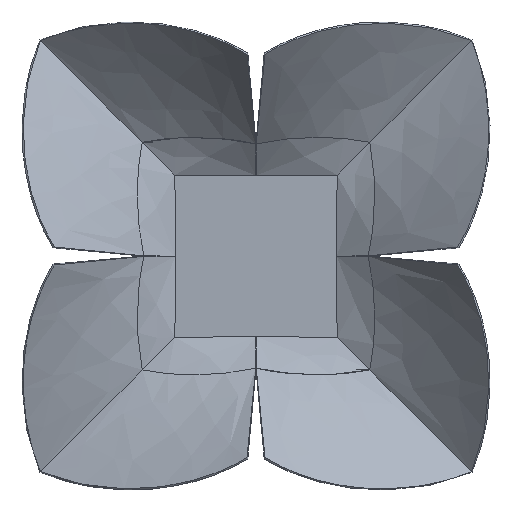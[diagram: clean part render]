
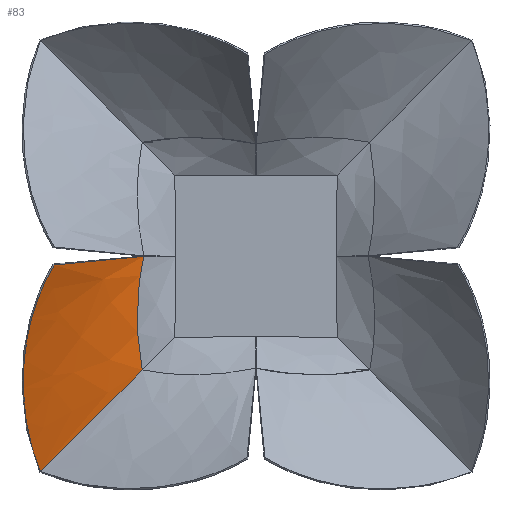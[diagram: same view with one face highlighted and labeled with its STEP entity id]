
A CAD part, top view. The second image highlights one B-rep face of the part: STEP entity #83.
In plain terms, the highlighted free-form (B-spline) face has degree [3, 3] with [5, 5] control points.
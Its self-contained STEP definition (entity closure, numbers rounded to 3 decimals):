
#83=ADVANCED_FACE('',(#169),#1104,.T.);
#169=FACE_OUTER_BOUND('',#255,.T.);
#255=EDGE_LOOP('',(#510,#511,#512,#513));
#510=ORIENTED_EDGE('',*,*,#751,.T.);
#511=ORIENTED_EDGE('',*,*,#784,.T.);
#512=ORIENTED_EDGE('',*,*,#752,.T.);
#513=ORIENTED_EDGE('',*,*,#808,.T.);
#751=EDGE_CURVE('',#1031,#1070,#859,.T.);
#752=EDGE_CURVE('',#1015,#1071,#860,.T.);
#784=EDGE_CURVE('',#1070,#1015,#883,.T.);
#808=EDGE_CURVE('',#1071,#1031,#906,.T.);
#859=B_SPLINE_CURVE_WITH_KNOTS('',3,(#2641,#2642,#2643,#2644,#2645),
 .UNSPECIFIED.,.F.,.F.,(4,1,4),(0.,46.835,93.767),
 .UNSPECIFIED.);
#860=B_SPLINE_CURVE_WITH_KNOTS('',3,(#2646,#2647,#2648,#2649,#2650,#2651),
 .UNSPECIFIED.,.F.,.F.,(4,2,4),(0.,54.469,108.923),
 .UNSPECIFIED.);
#883=B_SPLINE_CURVE_WITH_KNOTS('',3,(#2818,#2819,#2820,#2821),
 .UNSPECIFIED.,.F.,.F.,(4,4),(-143.796,-0.778),
 .UNSPECIFIED.);
#906=B_SPLINE_CURVE_WITH_KNOTS('',3,(#2968,#2969,#2970,#2971,#2972,#2973,
#2974,#2975,#2976,#2977,#2978,#2979,#2980,#2981,#2982,#2983,#2984,#2985,
#2986),.UNSPECIFIED.,.F.,.F.,(4,3,2,2,2,2,2,2,4),(-3.048,0.,
11.066,22.051,43.578,54.076,59.238,
64.32,83.841),.UNSPECIFIED.);
#1015=VERTEX_POINT('',#2199);
#1031=VERTEX_POINT('',#2215);
#1070=VERTEX_POINT('',#2254);
#1071=VERTEX_POINT('',#2255);
#1104=B_SPLINE_SURFACE_WITH_KNOTS('',3,3,((#1811,#1812,#1813,#1814,#1815),
(#1816,#1817,#1818,#1819,#1820),(#1821,#1822,#1823,#1824,#1825),(#1826,
#1827,#1828,#1829,#1830),(#1831,#1832,#1833,#1834,#1835)),.UNSPECIFIED.,
 .F.,.F.,.F.,(4,1,4),(4,1,4),(0.,71.898,143.796),(30.299,
76.86,123.421),.UNSPECIFIED.);
#1811=CARTESIAN_POINT('',(-84.952,-86.049,-2.504));
#1812=CARTESIAN_POINT('',(-97.559,-98.827,0.117));
#1813=CARTESIAN_POINT('',(-122.864,-124.282,5.401));
#1814=CARTESIAN_POINT('',(-148.207,-149.692,10.718));
#1815=CARTESIAN_POINT('',(-160.882,-162.393,13.38));
#1816=CARTESIAN_POINT('',(-87.937,-71.497,1.591));
#1817=CARTESIAN_POINT('',(-101.954,-82.206,6.559));
#1818=CARTESIAN_POINT('',(-130.047,-103.526,16.527));
#1819=CARTESIAN_POINT('',(-158.166,-124.795,26.526));
#1820=CARTESIAN_POINT('',(-172.229,-135.425,31.528));
#1821=CARTESIAN_POINT('',(-90.141,-41.481,8.567));
#1822=CARTESIAN_POINT('',(-105.01,-47.564,17.614));
#1823=CARTESIAN_POINT('',(-134.771,-59.64,35.725));
#1824=CARTESIAN_POINT('',(-164.543,-71.656,53.859));
#1825=CARTESIAN_POINT('',(-179.43,-77.659,62.929));
#1826=CARTESIAN_POINT('',(-86.599,-13.187,11.053));
#1827=CARTESIAN_POINT('',(-99.342,-15.52,21.889));
#1828=CARTESIAN_POINT('',(-124.84,-20.108,43.564));
#1829=CARTESIAN_POINT('',(-150.338,-24.631,65.252));
#1830=CARTESIAN_POINT('',(-163.087,-26.886,76.098));
#1831=CARTESIAN_POINT('',(-83.84,-0.37,10.649));
#1832=CARTESIAN_POINT('',(-95.011,-1.511,21.541));
#1833=CARTESIAN_POINT('',(-117.365,-3.725,43.32));
#1834=CARTESIAN_POINT('',(-139.719,-5.872,65.106));
#1835=CARTESIAN_POINT('',(-150.894,-6.937,76.001));
#2199=CARTESIAN_POINT('',(-161.248,-161.516,13.968));
#2215=CARTESIAN_POINT('',(-83.909,-0.377,10.716));
#2254=CARTESIAN_POINT('',(-150.894,-6.937,76.001));
#2255=CARTESIAN_POINT('',(-85.093,-85.361,-2.311));
#2641=CARTESIAN_POINT('',(-83.909,-0.377,10.716));
#2642=CARTESIAN_POINT('',(-95.057,-1.516,21.586));
#2643=CARTESIAN_POINT('',(-117.388,-3.728,43.342));
#2644=CARTESIAN_POINT('',(-139.719,-5.872,65.106));
#2645=CARTESIAN_POINT('',(-150.894,-6.937,76.001));
#2646=CARTESIAN_POINT('',(-161.248,-161.516,13.968));
#2647=CARTESIAN_POINT('',(-148.552,-148.82,11.271));
#2648=CARTESIAN_POINT('',(-135.856,-136.124,8.569));
#2649=CARTESIAN_POINT('',(-110.47,-110.739,3.149));
#2650=CARTESIAN_POINT('',(-97.781,-98.049,0.426));
#2651=CARTESIAN_POINT('',(-85.093,-85.361,-2.311));
#2818=CARTESIAN_POINT('',(-150.894,-6.937,76.001));
#2819=CARTESIAN_POINT('',(-175.149,-46.627,76.19));
#2820=CARTESIAN_POINT('',(-183.486,-107.798,49.959));
#2821=CARTESIAN_POINT('',(-161.248,-161.516,13.968));
#2968=CARTESIAN_POINT('',(-85.093,-85.361,-2.311));
#2969=CARTESIAN_POINT('',(-85.288,-84.4,-2.041));
#2970=CARTESIAN_POINT('',(-85.474,-83.438,-1.774));
#2971=CARTESIAN_POINT('',(-85.653,-82.474,-1.51));
#2972=CARTESIAN_POINT('',(-86.296,-78.974,-0.554));
#2973=CARTESIAN_POINT('',(-86.834,-75.454,0.366));
#2974=CARTESIAN_POINT('',(-87.712,-68.379,2.12));
#2975=CARTESIAN_POINT('',(-88.051,-64.84,2.951));
#2976=CARTESIAN_POINT('',(-88.781,-54.293,5.277));
#2977=CARTESIAN_POINT('',(-88.907,-47.218,6.64));
#2978=CARTESIAN_POINT('',(-88.588,-36.688,8.294));
#2979=CARTESIAN_POINT('',(-88.403,-33.237,8.776));
#2980=CARTESIAN_POINT('',(-88.007,-28.074,9.393));
#2981=CARTESIAN_POINT('',(-87.857,-26.373,9.58));
#2982=CARTESIAN_POINT('',(-87.521,-22.994,9.915));
#2983=CARTESIAN_POINT('',(-87.335,-21.32,10.063));
#2984=CARTESIAN_POINT('',(-86.345,-13.211,10.688));
#2985=CARTESIAN_POINT('',(-85.271,-6.736,10.905));
#2986=CARTESIAN_POINT('',(-83.909,-0.377,10.716));
